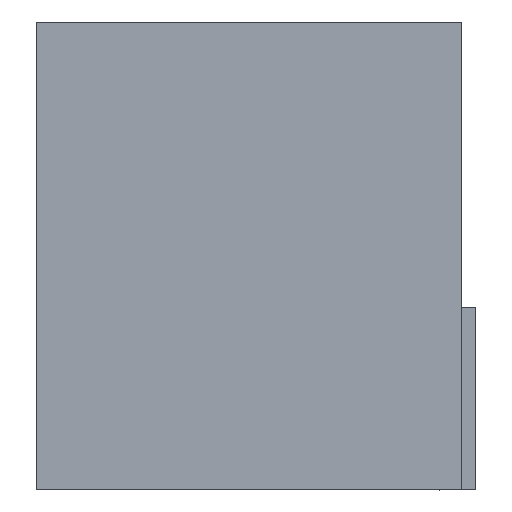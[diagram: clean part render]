
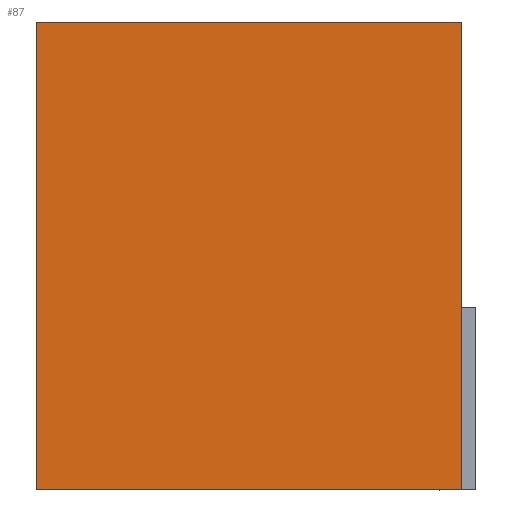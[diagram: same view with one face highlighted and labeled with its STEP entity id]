
A CAD part, left-side view. The second image highlights one B-rep face of the part: STEP entity #87.
In plain terms, the highlighted planar face has unit normal (-1, 0, 0).
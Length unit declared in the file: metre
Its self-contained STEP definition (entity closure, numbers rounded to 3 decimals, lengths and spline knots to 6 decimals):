
#87 = ADVANCED_FACE( '', ( #210 ), #211, .T. );
#210 = FACE_OUTER_BOUND( '', #3836, .T. );
#211 = PLANE( '', #3837 );
#3836 = EDGE_LOOP( '', ( #9326, #9327, #9328, #9329 ) );
#3837 = AXIS2_PLACEMENT_3D( '', #9330, #9331, #9332 );
#9326 = ORIENTED_EDGE( '', *, *, #9788, .F. );
#9327 = ORIENTED_EDGE( '', *, *, #9779, .T. );
#9328 = ORIENTED_EDGE( '', *, *, #9889, .F. );
#9329 = ORIENTED_EDGE( '', *, *, #9870, .F. );
#9330 = CARTESIAN_POINT( '', ( -4.592023, 1.353904, -0.030005 ) );
#9331 = DIRECTION( '', ( -1., 0., 0. ) );
#9332 = DIRECTION( '', ( 0., 0., 1. ) );
#9779 = EDGE_CURVE( '', #10031, #10035, #10037, .T. );
#9788 = EDGE_CURVE( '', #10031, #10054, #10055, .T. );
#9870 = EDGE_CURVE( '', #10054, #10205, #10206, .T. );
#9889 = EDGE_CURVE( '', #10205, #10035, #10235, .T. );
#10031 = VERTEX_POINT( '', #10442 );
#10035 = VERTEX_POINT( '', #10448 );
#10037 = LINE( '', #10451, #10452 );
#10054 = VERTEX_POINT( '', #10625 );
#10055 = LINE( '', #10626, #10627 );
#10205 = VERTEX_POINT( '', #12438 );
#10206 = LINE( '', #12439, #12440 );
#10235 = LINE( '', #12659, #12660 );
#10442 = CARTESIAN_POINT( '', ( -4.592023, -0.38, 3.850006 ) );
#10448 = CARTESIAN_POINT( '', ( -4.592023, 3.117808, 3.850006 ) );
#10451 = CARTESIAN_POINT( '', ( -4.592023, 1.353904, 3.850006 ) );
#10452 = VECTOR( '', #14890, 1. );
#10625 = CARTESIAN_POINT( '', ( -4.592023, -0.38, 0. ) );
#10626 = CARTESIAN_POINT( '', ( -4.592023, -0.38, -0.030005 ) );
#10627 = VECTOR( '', #14897, 1. );
#12438 = CARTESIAN_POINT( '', ( -4.592023, 3.117808, 0. ) );
#12439 = CARTESIAN_POINT( '', ( -4.592023, 1.353904, 0. ) );
#12440 = VECTOR( '', #14922, 1. );
#12659 = CARTESIAN_POINT( '', ( -4.592023, 3.117808, -0.030005 ) );
#12660 = VECTOR( '', #14937, 1. );
#14890 = DIRECTION( '', ( 0., 1., 0. ) );
#14897 = DIRECTION( '', ( 0., 0., -1. ) );
#14922 = DIRECTION( '', ( 0., 1., 0. ) );
#14937 = DIRECTION( '', ( 0., 0., 1. ) );
